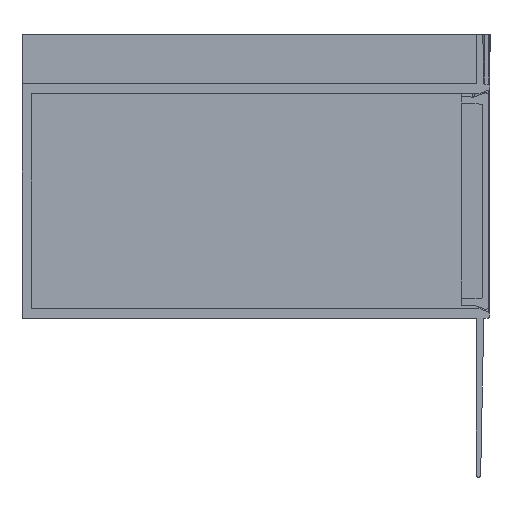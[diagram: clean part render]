
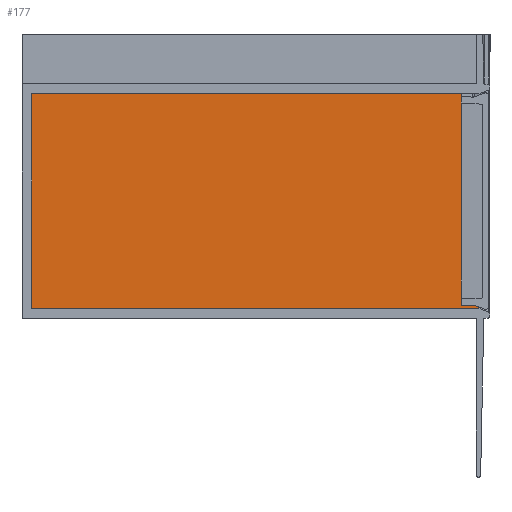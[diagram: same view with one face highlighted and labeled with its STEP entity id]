
A CAD part, left-side view. The second image highlights one B-rep face of the part: STEP entity #177.
In plain terms, the highlighted planar face has unit normal (-1, 0, 0).
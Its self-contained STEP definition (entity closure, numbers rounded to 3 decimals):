
#120=PLANE('',#1336);
#177=ADVANCED_FACE('',(#253),#120,.F.);
#253=FACE_OUTER_BOUND('',#321,.T.);
#321=EDGE_LOOP('',(#816,#817,#818,#819));
#440=LINE('',#1965,#581);
#442=LINE('',#1969,#583);
#443=LINE('',#1971,#584);
#444=LINE('',#1973,#585);
#581=VECTOR('',#1552,1.);
#583=VECTOR('',#1556,1.);
#584=VECTOR('',#1557,1.);
#585=VECTOR('',#1558,1.);
#816=ORIENTED_EDGE('',*,*,#1198,.T.);
#817=ORIENTED_EDGE('',*,*,#1200,.T.);
#818=ORIENTED_EDGE('',*,*,#1201,.F.);
#819=ORIENTED_EDGE('',*,*,#1202,.F.);
#1056=VERTEX_POINT('',#1964);
#1057=VERTEX_POINT('',#1966);
#1058=VERTEX_POINT('',#1970);
#1059=VERTEX_POINT('',#1972);
#1198=EDGE_CURVE('',#1057,#1056,#440,.T.);
#1200=EDGE_CURVE('',#1056,#1058,#442,.T.);
#1201=EDGE_CURVE('',#1059,#1058,#443,.T.);
#1202=EDGE_CURVE('',#1057,#1059,#444,.T.);
#1336=AXIS2_PLACEMENT_3D('',#1974,#1559,#1560);
#1552=DIRECTION('',(0.,0.,-1.));
#1556=DIRECTION('',(0.,-1.,0.));
#1557=DIRECTION('',(0.,0.,-1.));
#1558=DIRECTION('',(0.,-1.,0.));
#1559=DIRECTION('',(1.,0.,0.));
#1560=DIRECTION('',(0.,1.,0.));
#1964=CARTESIAN_POINT('',(19.5,83.2,-49.746));
#1965=CARTESIAN_POINT('',(19.5,83.2,0.));
#1966=CARTESIAN_POINT('',(19.5,83.2,0.));
#1969=CARTESIAN_POINT('',(19.5,83.2,-49.746));
#1970=CARTESIAN_POINT('',(19.5,2.,-49.746));
#1971=CARTESIAN_POINT('',(19.5,2.,0.));
#1972=CARTESIAN_POINT('',(19.5,2.,0.));
#1973=CARTESIAN_POINT('',(19.5,83.2,0.));
#1974=CARTESIAN_POINT('',(19.5,83.2,0.));
